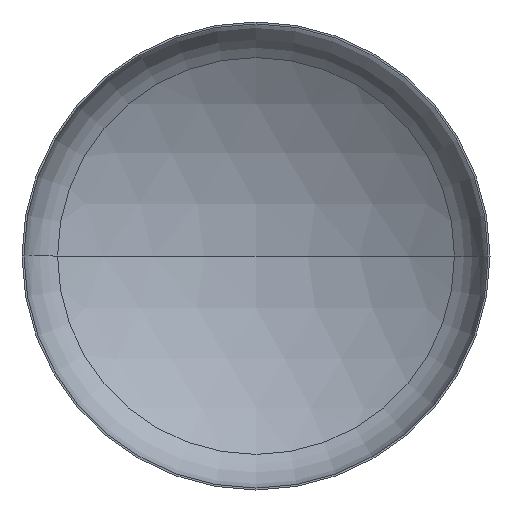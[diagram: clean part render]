
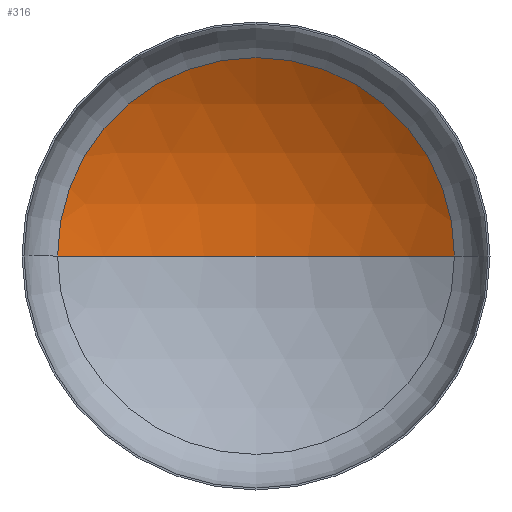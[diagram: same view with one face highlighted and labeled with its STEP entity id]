
A CAD part, front view. The second image highlights one B-rep face of the part: STEP entity #316.
In plain terms, the highlighted spherical face has radius 1360 mm.
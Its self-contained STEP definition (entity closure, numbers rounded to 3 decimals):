
#1 = AXIS2_PLACEMENT_3D ( 'NONE', #304, #111, #308 ) ;
#5 = AXIS2_PLACEMENT_3D ( 'NONE', #387, #141, #147 ) ;
#7 = AXIS2_PLACEMENT_3D ( 'NONE', #218, #384, #280 ) ;
#15 = EDGE_LOOP ( 'NONE', ( #400, #154, #116 ) ) ;
#25 = AXIS2_PLACEMENT_3D ( 'NONE', #150, #50, #67 ) ;
#50 = DIRECTION ( 'NONE',  ( 0., 0., 1. ) ) ;
#67 = DIRECTION ( 'NONE',  ( 1., 0., 0. ) ) ;
#102 = VERTEX_POINT ( 'NONE', #180 ) ;
#106 = SPHERICAL_SURFACE ( 'NONE', #5, 1360. ) ;
#107 = VERTEX_POINT ( 'NONE', #291 ) ;
#111 = DIRECTION ( 'NONE',  ( 0., 0., -1. ) ) ;
#116 = ORIENTED_EDGE ( 'NONE', *, *, #319, .T. ) ;
#141 = DIRECTION ( 'NONE',  ( 0., 0., -1. ) ) ;
#147 = DIRECTION ( 'NONE',  ( -1., 0., 0. ) ) ;
#150 = CARTESIAN_POINT ( 'NONE',  ( 0., -907.797, 0. ) ) ;
#154 = ORIENTED_EDGE ( 'NONE', *, *, #326, .T. ) ;
#174 = VERTEX_POINT ( 'NONE', #212 ) ;
#180 = CARTESIAN_POINT ( 'NONE',  ( 720.8, 245.479, 0. ) ) ;
#211 = FACE_OUTER_BOUND ( 'NONE', #15, .T. ) ;
#212 = CARTESIAN_POINT ( 'NONE',  ( -720.8, 245.479, 0. ) ) ;
#218 = CARTESIAN_POINT ( 'NONE',  ( 0., 245.479, 0. ) ) ;
#280 = DIRECTION ( 'NONE',  ( 1., 0., 0. ) ) ;
#291 = CARTESIAN_POINT ( 'NONE',  ( 0., 452.203, 0. ) ) ;
#298 = EDGE_CURVE ( 'NONE', #107, #174, #399, .T. ) ;
#304 = CARTESIAN_POINT ( 'NONE',  ( 0., -907.797, 0. ) ) ;
#308 = DIRECTION ( 'NONE',  ( -1., 0., 0. ) ) ;
#316 = ADVANCED_FACE ( 'NONE', ( #211 ), #106, .F. ) ;
#319 = EDGE_CURVE ( 'NONE', #102, #174, #331, .T. ) ;
#326 = EDGE_CURVE ( 'NONE', #107, #102, #394, .T. ) ;
#331 = CIRCLE ( 'NONE', #7, 720.8 ) ;
#384 = DIRECTION ( 'NONE',  ( 0., -1., 0. ) ) ;
#387 = CARTESIAN_POINT ( 'NONE',  ( 0., -907.797, 0. ) ) ;
#394 = CIRCLE ( 'NONE', #1, 1360. ) ;
#399 = CIRCLE ( 'NONE', #25, 1360. ) ;
#400 = ORIENTED_EDGE ( 'NONE', *, *, #298, .F. ) ;
